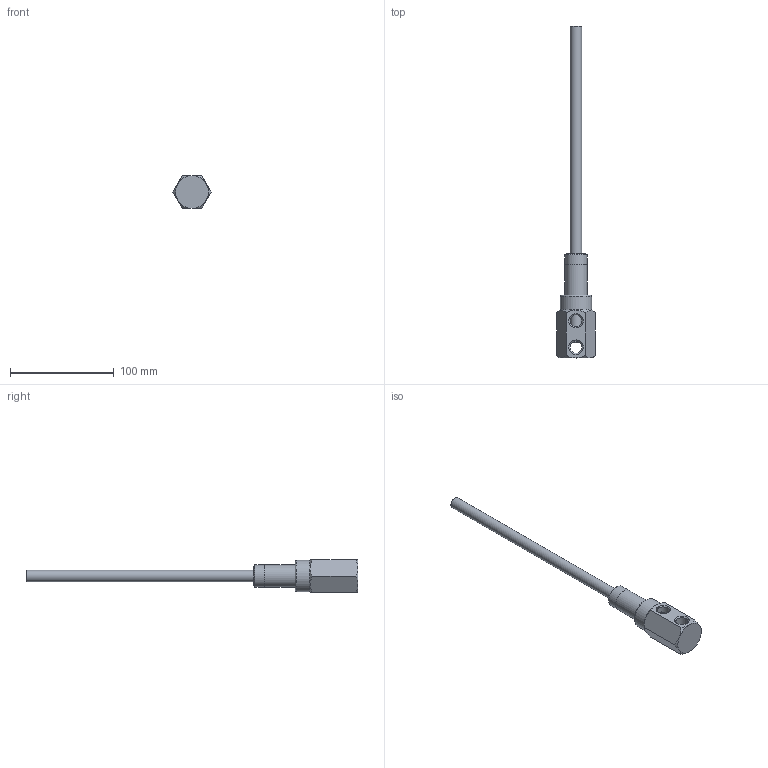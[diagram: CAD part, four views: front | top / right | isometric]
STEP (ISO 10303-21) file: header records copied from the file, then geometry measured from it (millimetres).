
FILE_DESCRIPTION(/* description */ (''),/* implementation_level */ '2;1');
FILE_NAME(/* name */ 'C:/Users/drich/Desktop/121N-4-HFT v1.step',/* time_stamp */ '2020-01-15T19:36:46-06:00',/* author */ (''),/* organization */ (''),/* preprocessor_version */ 'ST-DEVELOPER v18',/* originating_system */ 'Autodesk Translation Framework v8.12.0.6',/* authorisation */ '');
FILE_SCHEMA (('AUTOMOTIVE_DESIGN { 1 0 10303 214 3 1 1 }'));
Length unit declared in the file: inch
Products named in the file (4): 121N-4-HFT; 121H-4; SSPN12-2; HF437T-12
Assembly tree (3 placements, depth 2):
  121N-4-HFT
    121H-4
    SSPN12-2
    HF437T-12
Bounding box: 36.66 x 319.4 x 31.75 mm (x, y, z)
Volume: 47865.2 mm3; surface area: 37343.6 mm2
Topology: 3 solids, 3 shells, 60 faces, 151 edges, 101 vertices
Faces by surface type: cone 24, plane 17, cylinder 14, torus 5
Full cylindrical faces by diameter (mm): 10.084 x1, 10.846 x1, 11.468 x1, 11.668 x3, 12.565 x1, 12.751 x1, 15.799 x1, 18.901 x1, 21.285 x2, 21.336 x1, 30.15 x1
Entity records: 2075 total; most frequent: CARTESIAN_POINT 497, DIRECTION 334, ORIENTED_EDGE 302, AXIS2_PLACEMENT_3D 153, EDGE_CURVE 151, VERTEX_POINT 101, CIRCLE 86, EDGE_LOOP 74
